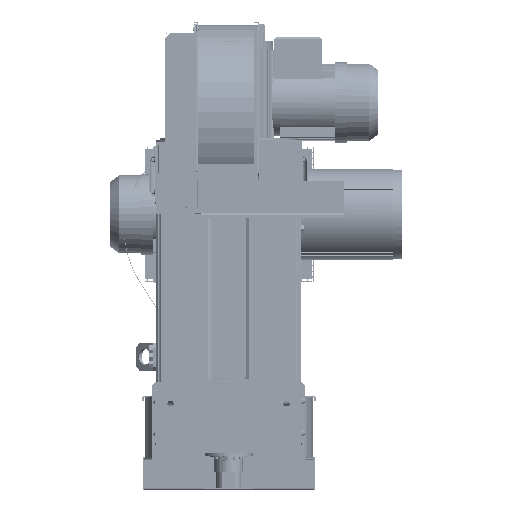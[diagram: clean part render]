
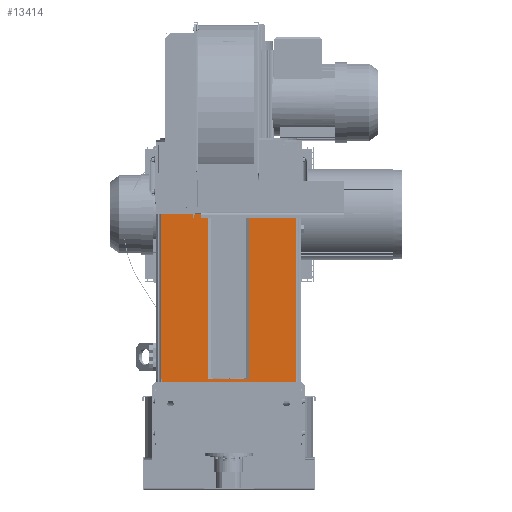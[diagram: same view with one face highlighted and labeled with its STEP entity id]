
A CAD part, left-side view. The second image highlights one B-rep face of the part: STEP entity #13414.
In plain terms, the highlighted planar face has unit normal (-1, 0, 0).
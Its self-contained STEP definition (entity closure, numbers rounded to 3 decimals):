
#13414 = ADVANCED_FACE( '', ( #40051, #40052 ), #40053, .F. );
#40051 = FACE_BOUND( '', #68811, .T. );
#40052 = FACE_OUTER_BOUND( '', #68812, .T. );
#40053 = PLANE( '', #68813 );
#68811 = EDGE_LOOP( '', ( #163281, #163282, #163283, #163284 ) );
#68812 = EDGE_LOOP( '', ( #163285, #163286, #163287, #163288, #163289, #163290, #163291, #163292, #163293, #163294, #163295, #163296 ) );
#68813 = AXIS2_PLACEMENT_3D( '', #163297, #163298, #163299 );
#163281 = ORIENTED_EDGE( '', *, *, #202570, .T. );
#163282 = ORIENTED_EDGE( '', *, *, #202571, .F. );
#163283 = ORIENTED_EDGE( '', *, *, #202572, .F. );
#163284 = ORIENTED_EDGE( '', *, *, #202573, .F. );
#163285 = ORIENTED_EDGE( '', *, *, #201408, .F. );
#163286 = ORIENTED_EDGE( '', *, *, #202574, .T. );
#163287 = ORIENTED_EDGE( '', *, *, #202575, .T. );
#163288 = ORIENTED_EDGE( '', *, *, #202576, .T. );
#163289 = ORIENTED_EDGE( '', *, *, #202577, .F. );
#163290 = ORIENTED_EDGE( '', *, *, #202578, .T. );
#163291 = ORIENTED_EDGE( '', *, *, #201768, .F. );
#163292 = ORIENTED_EDGE( '', *, *, #202579, .T. );
#163293 = ORIENTED_EDGE( '', *, *, #202580, .F. );
#163294 = ORIENTED_EDGE( '', *, *, #202581, .F. );
#163295 = ORIENTED_EDGE( '', *, *, #202582, .T. );
#163296 = ORIENTED_EDGE( '', *, *, #202583, .T. );
#163297 = CARTESIAN_POINT( '', ( -158., 158., 0. ) );
#163298 = DIRECTION( '', ( 1., 0., 0. ) );
#163299 = DIRECTION( '', ( 0., -1., 0. ) );
#201408 = EDGE_CURVE( '', #254388, #254390, #254391, .T. );
#201768 = EDGE_CURVE( '', #255049, #255051, #255052, .T. );
#202570 = EDGE_CURVE( '', #256605, #256606, #256607, .T. );
#202571 = EDGE_CURVE( '', #256608, #256606, #256609, .T. );
#202572 = EDGE_CURVE( '', #256610, #256608, #256611, .T. );
#202573 = EDGE_CURVE( '', #256605, #256610, #256612, .T. );
#202574 = EDGE_CURVE( '', #254388, #256613, #256614, .F. );
#202575 = EDGE_CURVE( '', #256613, #256615, #256616, .T. );
#202576 = EDGE_CURVE( '', #256615, #256617, #256618, .T. );
#202577 = EDGE_CURVE( '', #256619, #256617, #256620, .T. );
#202578 = EDGE_CURVE( '', #256619, #255051, #256621, .F. );
#202579 = EDGE_CURVE( '', #255049, #256622, #256623, .F. );
#202580 = EDGE_CURVE( '', #256624, #256622, #256625, .T. );
#202581 = EDGE_CURVE( '', #256626, #256624, #256627, .T. );
#202582 = EDGE_CURVE( '', #256626, #256628, #256629, .T. );
#202583 = EDGE_CURVE( '', #256628, #254390, #256630, .F. );
#254388 = VERTEX_POINT( '', #340759 );
#254390 = VERTEX_POINT( '', #340761 );
#254391 = LINE( '', #340762, #340763 );
#255049 = VERTEX_POINT( '', #341712 );
#255051 = VERTEX_POINT( '', #341714 );
#255052 = LINE( '', #341715, #341716 );
#256605 = VERTEX_POINT( '', #343680 );
#256606 = VERTEX_POINT( '', #343681 );
#256607 = LINE( '', #343682, #343683 );
#256608 = VERTEX_POINT( '', #343684 );
#256609 = LINE( '', #343685, #343686 );
#256610 = VERTEX_POINT( '', #343687 );
#256611 = LINE( '', #343688, #343689 );
#256612 = LINE( '', #343690, #343691 );
#256613 = VERTEX_POINT( '', #343692 );
#256614 = LINE( '', #343693, #343694 );
#256615 = VERTEX_POINT( '', #343695 );
#256616 = LINE( '', #343696, #343697 );
#256617 = VERTEX_POINT( '', #343698 );
#256618 = LINE( '', #343699, #343700 );
#256619 = VERTEX_POINT( '', #343701 );
#256620 = LINE( '', #343702, #343703 );
#256621 = LINE( '', #343704, #343705 );
#256622 = VERTEX_POINT( '', #343706 );
#256623 = LINE( '', #343707, #343708 );
#256624 = VERTEX_POINT( '', #343709 );
#256625 = LINE( '', #343710, #343711 );
#256626 = VERTEX_POINT( '', #343712 );
#256627 = LINE( '', #343713, #343714 );
#256628 = VERTEX_POINT( '', #343715 );
#256629 = LINE( '', #343716, #343717 );
#256630 = LINE( '', #343718, #343719 );
#340759 = CARTESIAN_POINT( '', ( -158., -146.757, -368. ) );
#340761 = CARTESIAN_POINT( '', ( -158., 146.757, -368. ) );
#340762 = CARTESIAN_POINT( '', ( -158., 158., -368. ) );
#340763 = VECTOR( '', #386251, 1000. );
#341712 = CARTESIAN_POINT( '', ( -158., 146.757, 8. ) );
#341714 = CARTESIAN_POINT( '', ( -158., -146.757, 8. ) );
#341715 = CARTESIAN_POINT( '', ( -158., 158., 8. ) );
#341716 = VECTOR( '', #386972, 1000. );
#343680 = CARTESIAN_POINT( '', ( -158., 45., -360. ) );
#343681 = CARTESIAN_POINT( '', ( -158., 45., 0. ) );
#343682 = CARTESIAN_POINT( '', ( -158., 45., -360. ) );
#343683 = VECTOR( '', #388554, 1000. );
#343684 = CARTESIAN_POINT( '', ( -158., -45., 0. ) );
#343685 = CARTESIAN_POINT( '', ( -158., 158., 0. ) );
#343686 = VECTOR( '', #388555, 1000. );
#343687 = CARTESIAN_POINT( '', ( -158., -45., -360. ) );
#343688 = CARTESIAN_POINT( '', ( -158., -45., -360. ) );
#343689 = VECTOR( '', #388556, 1000. );
#343690 = CARTESIAN_POINT( '', ( -158., 158., -360. ) );
#343691 = VECTOR( '', #388557, 1000. );
#343692 = CARTESIAN_POINT( '', ( -158., -146.757, -360. ) );
#343693 = CARTESIAN_POINT( '', ( -158., -146.757, -360. ) );
#343694 = VECTOR( '', #388558, 1000. );
#343695 = CARTESIAN_POINT( '', ( -158., -148., -360. ) );
#343696 = CARTESIAN_POINT( '', ( -158., -148., -360. ) );
#343697 = VECTOR( '', #388559, 1000. );
#343698 = CARTESIAN_POINT( '', ( -158., -148., 0. ) );
#343699 = CARTESIAN_POINT( '', ( -158., -148., -360. ) );
#343700 = VECTOR( '', #388560, 1000. );
#343701 = CARTESIAN_POINT( '', ( -158., -146.757, 0. ) );
#343702 = CARTESIAN_POINT( '', ( -158., -148., 0. ) );
#343703 = VECTOR( '', #388561, 1000. );
#343704 = CARTESIAN_POINT( '', ( -158., -146.757, 12. ) );
#343705 = VECTOR( '', #388562, 1000. );
#343706 = CARTESIAN_POINT( '', ( -158., 146.757, 0. ) );
#343707 = CARTESIAN_POINT( '', ( -158., 146.757, 0. ) );
#343708 = VECTOR( '', #388563, 1000. );
#343709 = CARTESIAN_POINT( '', ( -158., 148., 0. ) );
#343710 = CARTESIAN_POINT( '', ( -158., 148., 0. ) );
#343711 = VECTOR( '', #388564, 1000. );
#343712 = CARTESIAN_POINT( '', ( -158., 148., -360. ) );
#343713 = CARTESIAN_POINT( '', ( -158., 148., -360. ) );
#343714 = VECTOR( '', #388565, 1000. );
#343715 = CARTESIAN_POINT( '', ( -158., 146.757, -360. ) );
#343716 = CARTESIAN_POINT( '', ( -158., 148., -360. ) );
#343717 = VECTOR( '', #388566, 1000. );
#343718 = CARTESIAN_POINT( '', ( -158., 146.757, -372. ) );
#343719 = VECTOR( '', #388567, 1000. );
#386251 = DIRECTION( '', ( 0., 1., 0. ) );
#386972 = DIRECTION( '', ( 0., -1., 0. ) );
#388554 = DIRECTION( '', ( 0., 0., 1. ) );
#388555 = DIRECTION( '', ( 0., 1., 0. ) );
#388556 = DIRECTION( '', ( 0., 0., 1. ) );
#388557 = DIRECTION( '', ( 0., -1., 0. ) );
#388558 = DIRECTION( '', ( 0., 0., -1. ) );
#388559 = DIRECTION( '', ( 0., -1., 0. ) );
#388560 = DIRECTION( '', ( 0., 0., 1. ) );
#388561 = DIRECTION( '', ( 0., -1., 0. ) );
#388562 = DIRECTION( '', ( 0., 0., -1. ) );
#388563 = DIRECTION( '', ( 0., 0., 1. ) );
#388564 = DIRECTION( '', ( 0., -1., 0. ) );
#388565 = DIRECTION( '', ( 0., 0., 1. ) );
#388566 = DIRECTION( '', ( 0., -1., 0. ) );
#388567 = DIRECTION( '', ( 0., 0., 1. ) );
